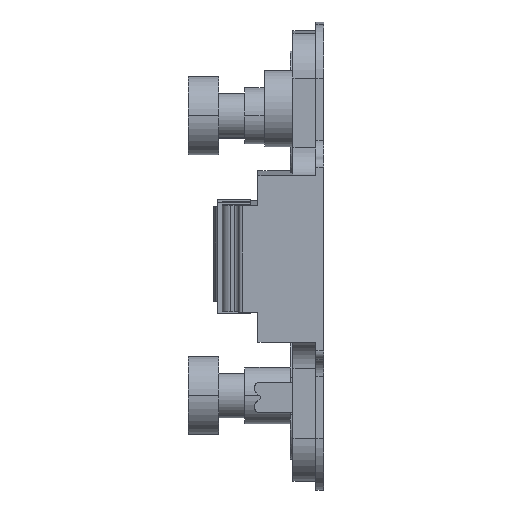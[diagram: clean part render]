
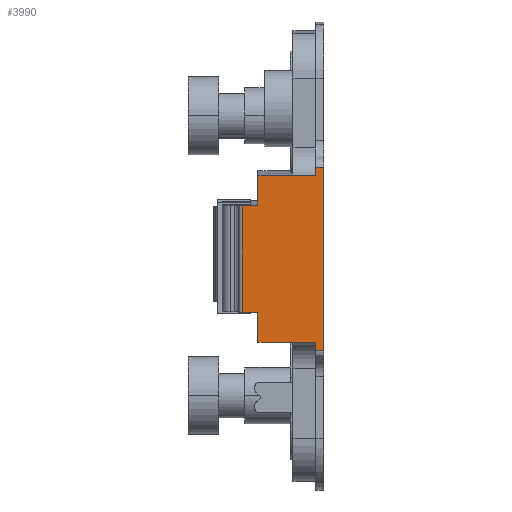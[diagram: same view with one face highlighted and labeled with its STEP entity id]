
A CAD part, left-side view. The second image highlights one B-rep face of the part: STEP entity #3990.
In plain terms, the highlighted planar face has unit normal (-1, 0, -0.017).
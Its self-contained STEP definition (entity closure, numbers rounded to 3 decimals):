
#5 = LINE ( 'NONE', #4585, #1172 ) ;
#95 = DIRECTION ( 'NONE',  ( 0.017, 0., -1. ) ) ;
#343 = EDGE_CURVE ( 'NONE', #3412, #4252, #2466, .T. ) ;
#352 = DIRECTION ( 'NONE',  ( 0., -1., 0. ) ) ;
#376 = LINE ( 'NONE', #4474, #4299 ) ;
#440 = VERTEX_POINT ( 'NONE', #669 ) ;
#448 = VECTOR ( 'NONE', #3183, 1000. ) ;
#462 = LINE ( 'NONE', #1690, #2762 ) ;
#524 = VECTOR ( 'NONE', #966, 1000. ) ;
#532 = VERTEX_POINT ( 'NONE', #1741 ) ;
#571 = ORIENTED_EDGE ( 'NONE', *, *, #3240, .T. ) ;
#572 = CARTESIAN_POINT ( 'NONE',  ( -12.177, 0.79, 4.357 ) ) ;
#593 = CARTESIAN_POINT ( 'NONE',  ( -11.635, -8.703, -26.697 ) ) ;
#594 = VERTEX_POINT ( 'NONE', #3402 ) ;
#669 = CARTESIAN_POINT ( 'NONE',  ( -11.907, 2.59, -11.099 ) ) ;
#707 = DIRECTION ( 'NONE',  ( 0., 1., 0. ) ) ;
#710 = AXIS2_PLACEMENT_3D ( 'NONE', #756, #1472, #352 ) ;
#750 = CARTESIAN_POINT ( 'NONE',  ( -12.024, 2.59, -4.395 ) ) ;
#756 = CARTESIAN_POINT ( 'NONE',  ( -12.177, -5.21, 4.357 ) ) ;
#790 = EDGE_LOOP ( 'NONE', ( #1966, #4212, #3134, #571, #3711, #897, #1975, #3545, #2245, #3510, #3423, #4538 ) ) ;
#797 = VERTEX_POINT ( 'NONE', #2409 ) ;
#897 = ORIENTED_EDGE ( 'NONE', *, *, #3980, .T. ) ;
#915 = CARTESIAN_POINT ( 'NONE',  ( -11.618, -5.81, -27.697 ) ) ;
#966 = DIRECTION ( 'NONE',  ( 0., 1., 0. ) ) ;
#1056 = LINE ( 'NONE', #593, #524 ) ;
#1073 = FACE_OUTER_BOUND ( 'NONE', #790, .T. ) ;
#1129 = CARTESIAN_POINT ( 'NONE',  ( -11.966, -9.21, -7.7 ) ) ;
#1172 = VECTOR ( 'NONE', #3045, 1000. ) ;
#1275 = CARTESIAN_POINT ( 'NONE',  ( -11.618, -6.71, -27.697 ) ) ;
#1336 = VERTEX_POINT ( 'NONE', #4632 ) ;
#1369 = LINE ( 'NONE', #2524, #1843 ) ;
#1472 = DIRECTION ( 'NONE',  ( 1., 0., 0.017 ) ) ;
#1501 = EDGE_CURVE ( 'NONE', #2503, #797, #1369, .T. ) ;
#1531 = EDGE_CURVE ( 'NONE', #3412, #3770, #4071, .T. ) ;
#1590 = DIRECTION ( 'NONE',  ( 0.017, 0., -1. ) ) ;
#1609 = CARTESIAN_POINT ( 'NONE',  ( -11.635, -6.71, -26.697 ) ) ;
#1659 = LINE ( 'NONE', #572, #448 ) ;
#1690 = CARTESIAN_POINT ( 'NONE',  ( -11.565, 0.79, -30.696 ) ) ;
#1718 = EDGE_CURVE ( 'NONE', #4393, #594, #462, .T. ) ;
#1741 = CARTESIAN_POINT ( 'NONE',  ( -11.966, -5.81, -7.7 ) ) ;
#1843 = VECTOR ( 'NONE', #3314, 1000. ) ;
#1966 = ORIENTED_EDGE ( 'NONE', *, *, #4533, .T. ) ;
#1975 = ORIENTED_EDGE ( 'NONE', *, *, #2815, .T. ) ;
#2013 = DIRECTION ( 'NONE',  ( -0.017, 0., 1. ) ) ;
#2170 = CARTESIAN_POINT ( 'NONE',  ( -11.618, -5.21, -27.697 ) ) ;
#2232 = VECTOR ( 'NONE', #4837, 1000. ) ;
#2245 = ORIENTED_EDGE ( 'NONE', *, *, #1718, .T. ) ;
#2329 = CARTESIAN_POINT ( 'NONE',  ( -11.694, 0.79, -23.297 ) ) ;
#2409 = CARTESIAN_POINT ( 'NONE',  ( -11.984, -5.81, -6.7 ) ) ;
#2453 = EDGE_CURVE ( 'NONE', #532, #797, #5, .T. ) ;
#2466 = LINE ( 'NONE', #915, #3750 ) ;
#2503 = VERTEX_POINT ( 'NONE', #3485 ) ;
#2524 = CARTESIAN_POINT ( 'NONE',  ( -11.984, -5.21, -6.7 ) ) ;
#2644 = LINE ( 'NONE', #750, #3158 ) ;
#2658 = VERTEX_POINT ( 'NONE', #4001 ) ;
#2762 = VECTOR ( 'NONE', #95, 1000. ) ;
#2815 = EDGE_CURVE ( 'NONE', #440, #1336, #2644, .T. ) ;
#2852 = CARTESIAN_POINT ( 'NONE',  ( -11.618, -5.81, -27.697 ) ) ;
#2871 = CARTESIAN_POINT ( 'NONE',  ( -11.966, 0.79, -7.7 ) ) ;
#2970 = PLANE ( 'NONE',  #710 ) ;
#3045 = DIRECTION ( 'NONE',  ( -0.017, 0., 1. ) ) ;
#3069 = VECTOR ( 'NONE', #4880, 1000. ) ;
#3134 = ORIENTED_EDGE ( 'NONE', *, *, #2453, .F. ) ;
#3149 = VECTOR ( 'NONE', #4847, 1000. ) ;
#3158 = VECTOR ( 'NONE', #1590, 1000. ) ;
#3183 = DIRECTION ( 'NONE',  ( 0.017, 0., -1. ) ) ;
#3240 = EDGE_CURVE ( 'NONE', #532, #3937, #3378, .T. ) ;
#3314 = DIRECTION ( 'NONE',  ( 0., 1., 0. ) ) ;
#3378 = LINE ( 'NONE', #1129, #3069 ) ;
#3402 = CARTESIAN_POINT ( 'NONE',  ( -11.635, 0.79, -26.697 ) ) ;
#3412 = VERTEX_POINT ( 'NONE', #2852 ) ;
#3423 = ORIENTED_EDGE ( 'NONE', *, *, #343, .F. ) ;
#3462 = EDGE_CURVE ( 'NONE', #1336, #4393, #3658, .T. ) ;
#3479 = EDGE_CURVE ( 'NONE', #4252, #594, #1056, .T. ) ;
#3485 = CARTESIAN_POINT ( 'NONE',  ( -11.984, -6.71, -6.7 ) ) ;
#3510 = ORIENTED_EDGE ( 'NONE', *, *, #3479, .F. ) ;
#3545 = ORIENTED_EDGE ( 'NONE', *, *, #3462, .T. ) ;
#3552 = DIRECTION ( 'NONE',  ( -0.017, 0., 1. ) ) ;
#3581 = LINE ( 'NONE', #1609, #4439 ) ;
#3658 = LINE ( 'NONE', #4451, #3149 ) ;
#3711 = ORIENTED_EDGE ( 'NONE', *, *, #4550, .T. ) ;
#3712 = CARTESIAN_POINT ( 'NONE',  ( -11.635, -5.81, -26.697 ) ) ;
#3750 = VECTOR ( 'NONE', #2013, 1000. ) ;
#3770 = VERTEX_POINT ( 'NONE', #1275 ) ;
#3937 = VERTEX_POINT ( 'NONE', #2871 ) ;
#3980 = EDGE_CURVE ( 'NONE', #2658, #440, #376, .T. ) ;
#3990 = ADVANCED_FACE ( 'NONE', ( #1073 ), #2970, .F. ) ;
#4001 = CARTESIAN_POINT ( 'NONE',  ( -11.907, 0.79, -11.099 ) ) ;
#4071 = LINE ( 'NONE', #2170, #2232 ) ;
#4212 = ORIENTED_EDGE ( 'NONE', *, *, #1501, .T. ) ;
#4252 = VERTEX_POINT ( 'NONE', #3712 ) ;
#4299 = VECTOR ( 'NONE', #707, 1000. ) ;
#4393 = VERTEX_POINT ( 'NONE', #2329 ) ;
#4439 = VECTOR ( 'NONE', #3552, 1000. ) ;
#4451 = CARTESIAN_POINT ( 'NONE',  ( -11.694, -1.51, -23.297 ) ) ;
#4474 = CARTESIAN_POINT ( 'NONE',  ( -11.907, -1.51, -11.099 ) ) ;
#4533 = EDGE_CURVE ( 'NONE', #3770, #2503, #3581, .T. ) ;
#4538 = ORIENTED_EDGE ( 'NONE', *, *, #1531, .T. ) ;
#4550 = EDGE_CURVE ( 'NONE', #3937, #2658, #1659, .T. ) ;
#4585 = CARTESIAN_POINT ( 'NONE',  ( -11.966, -5.81, -7.7 ) ) ;
#4632 = CARTESIAN_POINT ( 'NONE',  ( -11.694, 2.59, -23.297 ) ) ;
#4837 = DIRECTION ( 'NONE',  ( 0., -1., 0. ) ) ;
#4847 = DIRECTION ( 'NONE',  ( 0., -1., 0. ) ) ;
#4880 = DIRECTION ( 'NONE',  ( 0., 1., 0. ) ) ;
